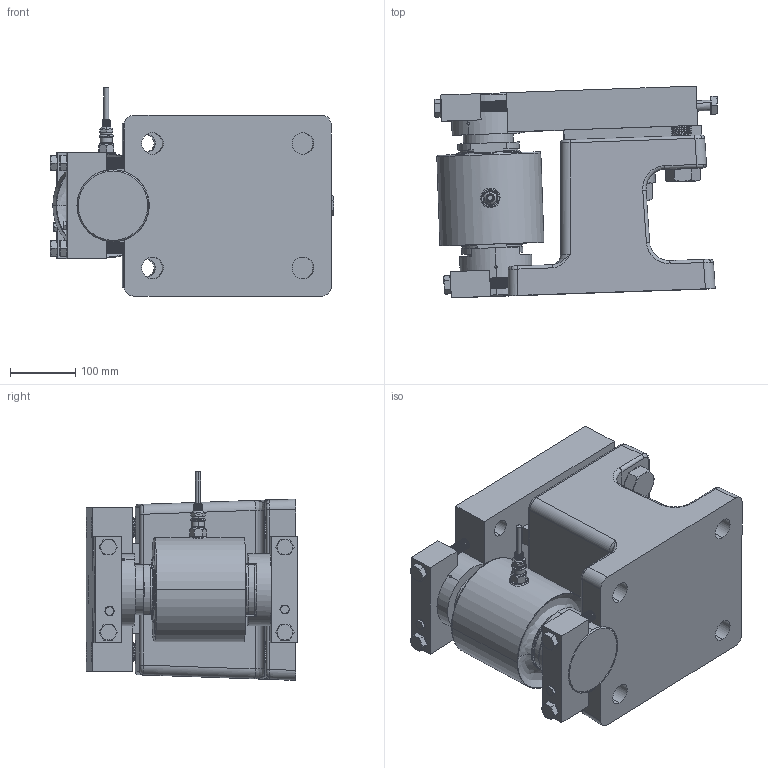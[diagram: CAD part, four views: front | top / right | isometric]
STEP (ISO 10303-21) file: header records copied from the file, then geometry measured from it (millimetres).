
FILE_DESCRIPTION (( 'STEP AP203' ), '1' );
FILE_NAME ('Load_Point_HILPRC03_330KLB.STEP', '2022-06-01T21:41:59', ( '' ), ( '' ), 'SwSTEP 2.0', 'SolidWorks 2020', '' );
FILE_SCHEMA (( 'CONFIG_CONTROL_DESIGN' ));
Length unit declared in the file: millimetre
Products named in the file (25): Adapter Nut; 4-7974 55-20 150T Top Plate.STEP; Hardy Cable Assembly; 4-7993-5 150T CLAMP.STEP; SHIPPING SPACER; 4-8004 55-20 150T CASTED VERSION.STEP; M42 X 140 hex cap screw_am_B18.2.3.1M - Hex cap screw, M42 x 4.5 x 140 --96C.STEP; 3-7988 150T 55-20 Load Cup-1.STEP; M8 X 12 hex cap screw_am_B18.2.3.1M - Hex cap screw, M8 x 1.25 x 12 --12N.STEP; 3-7987 150T 55-20 Load Cup Anti Rotation.STEP; 3-7988 150T 55-20 Load Cup.STEP; heavy hex screw_am_B18.2.3.3M - Heavy hex screw, M16 x 2.0 x 110 --110C; CAST BOTTOM 150T.STEP; Cable Adapter; 4-7992-4 150T WASHER.STEP; Load_Sensor_HIRCH03_330KLB; RC3-150T.STEP; Load_Point_HILPRC03_330KLB; M16 X 120 hex cap screw_am_B18.2.3.1M - Hex cap screw, M16 x 2.0 x 120 --120C.STEP; Cable; 3-7987 150T 55-20 Load Cup Anti Rotation-0.STEP; Socket Set Screw Cup Point_AI_SSCUPSKT 0.5-20x0.5-HX-C; M30 X 90 hex cap screw_am_B18.2.3.1M - Hex cap screw, M30 x 3.5 x 90 --90C.STEP; ORING 150T.STEP
Assembly tree (32 placements, depth 6):
  Load_Point_HILPRC03_330KLB
    4-8004 55-20 150T CASTED VERSION.STEP
      3-7987 150T 55-20 Load Cup Anti Rotation.STEP
        ORING 150T.STEP
        3-7987 150T 55-20 Load Cup Anti Rotation-0.STEP
      3-7988 150T 55-20 Load Cup.STEP
        ORING 150T.STEP
        3-7988 150T 55-20 Load Cup-1.STEP
      Load_Sensor_HIRCH03_330KLB
        Hardy Cable Assembly
          Adapter Nut
            Socket Set Screw Cup Point_AI_SSCUPSKT 0.5-20x0.5-HX-C
            Adapter Nut
          Cable
          Cable Adapter
        RC3-150T.STEP
      SHIPPING SPACER  x2
      M30 X 90 hex cap screw_am_B18.2.3.1M - Hex cap screw, M30 x 3.5 x 90 --90C.STEP  x2
      M16 X 120 hex cap screw_am_B18.2.3.1M - Hex cap screw, M16 x 2.0 x 120 --120C.STEP  x4
      M8 X 12 hex cap screw_am_B18.2.3.1M - Hex cap screw, M8 x 1.25 x 12 --12N.STEP  x2
      4-7974 55-20 150T Top Plate.STEP
      CAST BOTTOM 150T.STEP
      M42 X 140 hex cap screw_am_B18.2.3.1M - Hex cap screw, M42 x 4.5 x 140 --96C.STEP
      4-7992-4 150T WASHER.STEP
      4-7993-5 150T CLAMP.STEP  x2
    heavy hex screw_am_B18.2.3.3M - Heavy hex screw, M16 x 2.0 x 110 --110C
Bounding box: 432.82 x 323.25 x 318.13 mm (x, y, z)
Volume: 19282932.3 mm3; surface area: 1209982.6 mm2
Topology: 26 solids, 26 shells, 2690 faces, 5659 edges, 3021 vertices
Faces by surface type: cone 1480, cylinder 875, plane 263, bspline 72
Entity records: 41263 total; most frequent: CARTESIAN_POINT 10883, DIRECTION 6246, ORIENTED_EDGE 5448, EDGE_CURVE 2724, AXIS2_PLACEMENT_3D 2503, VERTEX_POINT 1515, EDGE_LOOP 1325, CIRCLE 1267
